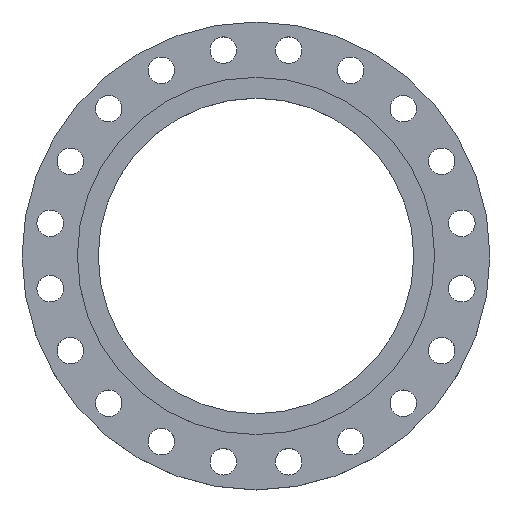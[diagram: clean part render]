
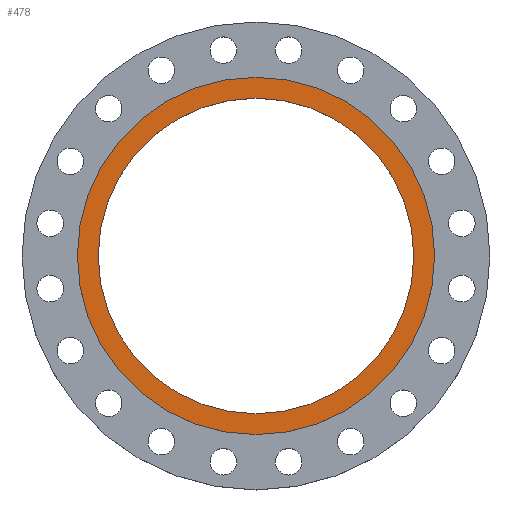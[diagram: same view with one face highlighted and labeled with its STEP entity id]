
A CAD part, top view. The second image highlights one B-rep face of the part: STEP entity #478.
In plain terms, the highlighted planar face has unit normal (0, 0, 1).
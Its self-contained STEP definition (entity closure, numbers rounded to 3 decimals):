
#5 = DIRECTION ( 'NONE',  ( 0., 0., -1. ) ) ;
#7 = FACE_BOUND ( 'NONE', #753, .T. ) ;
#26 = VERTEX_POINT ( 'NONE', #598 ) ;
#74 = VERTEX_POINT ( 'NONE', #1065 ) ;
#91 = AXIS2_PLACEMENT_3D ( 'NONE', #474, #1085, #1609 ) ;
#194 = EDGE_LOOP ( 'NONE', ( #1579, #1698 ) ) ;
#234 = CIRCLE ( 'NONE', #91, 231. ) ;
#258 = DIRECTION ( 'NONE',  ( -1., 0., 0. ) ) ;
#347 = ORIENTED_EDGE ( 'NONE', *, *, #601, .T. ) ;
#417 = DIRECTION ( 'NONE',  ( 0., 0., 1. ) ) ;
#474 = CARTESIAN_POINT ( 'NONE',  ( 0., 0., 0. ) ) ;
#478 = ADVANCED_FACE ( 'NONE', ( #7, #567 ), #1178, .T. ) ;
#507 = DIRECTION ( 'NONE',  ( -1., 0., 0. ) ) ;
#565 = DIRECTION ( 'NONE',  ( -1., 0., 0. ) ) ;
#567 = FACE_OUTER_BOUND ( 'NONE', #194, .T. ) ;
#598 = CARTESIAN_POINT ( 'NONE',  ( 261.5, 0., 0. ) ) ;
#601 = EDGE_CURVE ( 'NONE', #74, #942, #234, .T. ) ;
#635 = AXIS2_PLACEMENT_3D ( 'NONE', #1675, #417, #1030 ) ;
#649 = EDGE_CURVE ( 'NONE', #26, #1338, #898, .T. ) ;
#741 = EDGE_CURVE ( 'NONE', #1338, #26, #1094, .T. ) ;
#753 = EDGE_LOOP ( 'NONE', ( #1095, #347 ) ) ;
#768 = EDGE_CURVE ( 'NONE', #942, #74, #1143, .T. ) ;
#898 = CIRCLE ( 'NONE', #910, 261.5 ) ;
#910 = AXIS2_PLACEMENT_3D ( 'NONE', #1268, #1741, #507 ) ;
#942 = VERTEX_POINT ( 'NONE', #1523 ) ;
#1006 = CARTESIAN_POINT ( 'NONE',  ( 0., 0., 0. ) ) ;
#1030 = DIRECTION ( 'NONE',  ( 1., 0., 0. ) ) ;
#1065 = CARTESIAN_POINT ( 'NONE',  ( 231., 0., 0. ) ) ;
#1085 = DIRECTION ( 'NONE',  ( 0., 0., -1. ) ) ;
#1094 = CIRCLE ( 'NONE', #1100, 261.5 ) ;
#1095 = ORIENTED_EDGE ( 'NONE', *, *, #768, .T. ) ;
#1100 = AXIS2_PLACEMENT_3D ( 'NONE', #1006, #1550, #258 ) ;
#1143 = CIRCLE ( 'NONE', #1144, 231. ) ;
#1144 = AXIS2_PLACEMENT_3D ( 'NONE', #1319, #5, #565 ) ;
#1178 = PLANE ( 'NONE',  #635 ) ;
#1268 = CARTESIAN_POINT ( 'NONE',  ( 0., 0., 0. ) ) ;
#1319 = CARTESIAN_POINT ( 'NONE',  ( 0., 0., 0. ) ) ;
#1338 = VERTEX_POINT ( 'NONE', #1750 ) ;
#1523 = CARTESIAN_POINT ( 'NONE',  ( -231., 0., 0. ) ) ;
#1550 = DIRECTION ( 'NONE',  ( 0., 0., -1. ) ) ;
#1579 = ORIENTED_EDGE ( 'NONE', *, *, #741, .F. ) ;
#1609 = DIRECTION ( 'NONE',  ( -1., 0., 0. ) ) ;
#1675 = CARTESIAN_POINT ( 'NONE',  ( 0., 0., 0. ) ) ;
#1698 = ORIENTED_EDGE ( 'NONE', *, *, #649, .F. ) ;
#1741 = DIRECTION ( 'NONE',  ( 0., 0., -1. ) ) ;
#1750 = CARTESIAN_POINT ( 'NONE',  ( -261.5, 0., 0. ) ) ;
